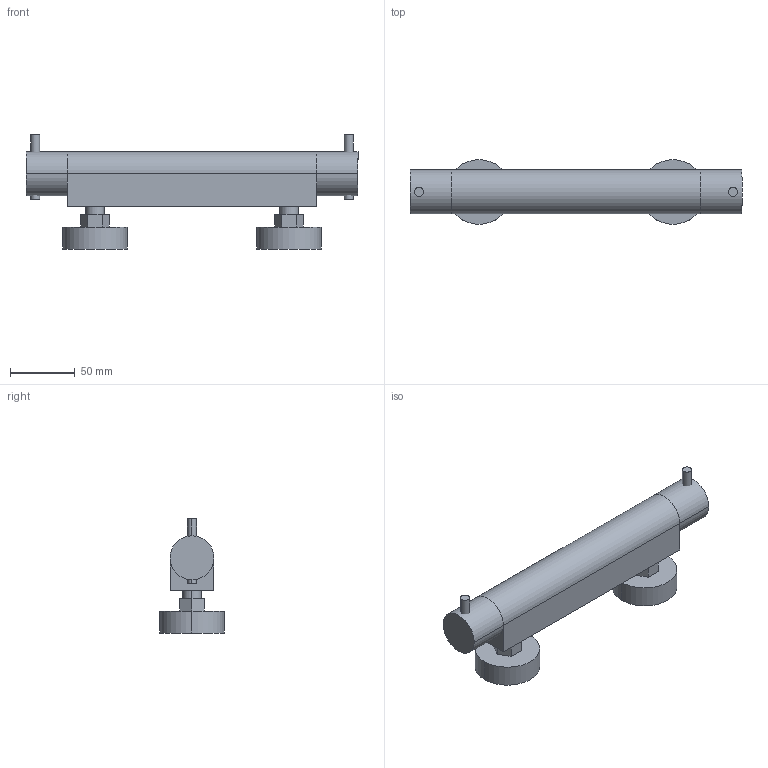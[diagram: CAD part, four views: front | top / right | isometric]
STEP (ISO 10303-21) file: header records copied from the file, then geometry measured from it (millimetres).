
FILE_DESCRIPTION(('FreeCAD Model'),'2;1');
FILE_NAME('Open CASCADE Shape Model','2025-05-30T20:50:36',(''),(''), 'Open CASCADE STEP processor 7.8','FreeCAD','Unknown');
FILE_SCHEMA(('AUTOMOTIVE_DESIGN { 1 0 10303 214 1 1 1 1 }'));
Length unit declared in the file: millimetre
Products named in the file (18): TopLevelAssembly; Wyci\X2\0105\X0\ganie003; Wyci\X2\0105\X0\ganie001; Wyci\X2\0105\X0\ganie002; Wyci\X2\0105\X0\ganie006; Wyci\X2\0105\X0\ganie004; Wyci\X2\0105\X0\ganie005; Wyci\X2\0105\X0\ganie009; Wyci\X2\0105\X0\ganie007; Wyci\X2\0105\X0\ganie008; Wyci\X2\0105\X0\ganie010; Wyci\X2\0105\X0\ganie011; Wyci\X2\0105\X0\gni\X2\0119\X0\cie po 
\X2\015B\X0\cie\X2\017C\X0\ce; Wyci\X2\0105\X0\ganie012; Wyci\X2\0105\X0\ganie016; Wyci\X2\0105\X0\ganie014; Wyci\X2\0105\X0\ganie015; Wyci\X2\0105\X0\gni\X2\0119\X0\cie po 
\X2\015B\X0\cie\X2\017C\X0\ce001
Assembly tree (17 placements, depth 3):
  TopLevelAssembly
    Wyci\X2\0105\X0\ganie003
      Wyci\X2\0105\X0\ganie001
      Wyci\X2\0105\X0\ganie002
    Wyci\X2\0105\X0\ganie006
      Wyci\X2\0105\X0\ganie004
      Wyci\X2\0105\X0\ganie005
    Wyci\X2\0105\X0\ganie009
      Wyci\X2\0105\X0\ganie007
      Wyci\X2\0105\X0\ganie008
    Wyci\X2\0105\X0\ganie010
    Wyci\X2\0105\X0\ganie011
    Wyci\X2\0105\X0\gni\X2\0119\X0\cie po 
\X2\015B\X0\cie\X2\017C\X0\ce
    Wyci\X2\0105\X0\ganie012
    Wyci\X2\0105\X0\ganie016
      Wyci\X2\0105\X0\ganie014
      Wyci\X2\0105\X0\ganie015
    Wyci\X2\0105\X0\gni\X2\0119\X0\cie po 
\X2\015B\X0\cie\X2\017C\X0\ce001
Bounding box: 256.6 x 50 x 88.23 mm (x, y, z)
Volume: 393827.8 mm3; surface area: 60887.9 mm2
Topology: 13 solids, 13 shells, 62 faces, 108 edges, 72 vertices
Faces by surface type: plane 41, cylinder 21
Entity records: 1918 total; most frequent: DIRECTION 310, CARTESIAN_POINT 260, ORIENTED_EDGE 216, AXIS2_PLACEMENT_3D 122, EDGE_CURVE 108, VERTEX_POINT 72, LINE 66, VECTOR 66
